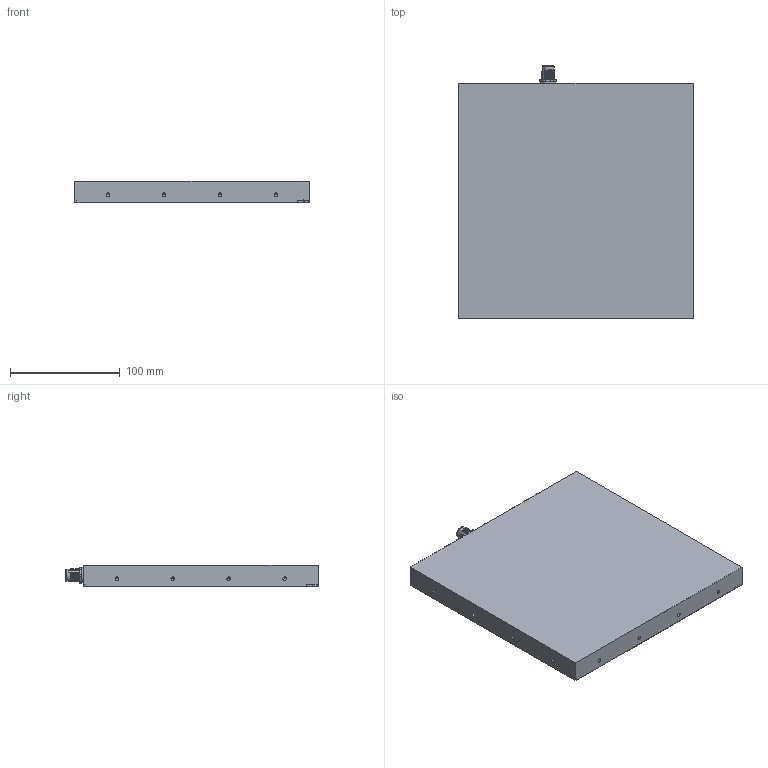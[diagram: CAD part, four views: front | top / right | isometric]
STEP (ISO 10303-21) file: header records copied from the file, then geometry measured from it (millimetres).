
FILE_DESCRIPTION (( 'STEP AP214' ), '1' );
FILE_NAME ('SBACK II 200x200.STEP', '2013-03-07T10:30:28', ( ' ' ), ( '' ), 'SwSTEP 2.0', 'SolidWorks 2009', '' );
FILE_SCHEMA (( 'AUTOMOTIVE_DESIGN' ));
Length unit declared in the file: millimetre
Products named in the file (1): SBACK II 200x200
Bounding box: 214 x 230 x 20 mm (x, y, z)
Volume: 623956.7 mm3; surface area: 211063.9 mm2
Topology: 2 solids, 11 shells, 370 faces, 957 edges, 572 vertices
Faces by surface type: cylinder 131, plane 107, cone 76, bspline 48, sphere 8
Entity records: 32931 total; most frequent: CARTESIAN_POINT 20818, ORIENTED_EDGE 1770, DIRECTION 1585, EDGE_CURVE 885, AXIS2_PLACEMENT_3D 570, VERTEX_POINT 564, LINE 445, VECTOR 445
